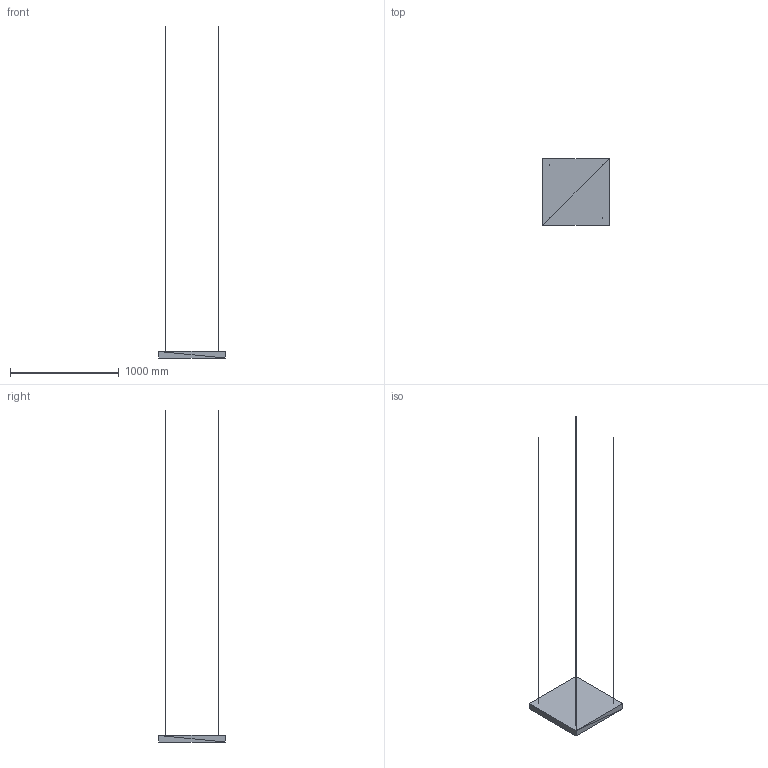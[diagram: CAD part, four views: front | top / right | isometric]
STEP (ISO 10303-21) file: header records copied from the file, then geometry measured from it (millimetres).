
FILE_DESCRIPTION(('ISINAC STEP AP214'),'2;1');
FILE_NAME('ISINAC_C.610_60mm_COLGADO','2026-05-03T10:49:19',('ISINAC'),('www.isinac.com'),'ISINAC BIM Generator 1.0','','');
FILE_SCHEMA(('AUTOMOTIVE_DESIGN'));
Length unit declared in the file: millimetre
Products named in the file (1): ISINAC_C.610_60mm_COLGADO
Bounding box: 610 x 610 x 3060 mm (x, y, z)
Surface area: 998646 mm2 (no closed solid volume)
Topology: 0 solids, 92 shells, 92 faces, 276 edges, 276 vertices
Faces by surface type: plane 92
Entity records: 1025 total; most frequent: CARTESIAN_POINT 368, DIRECTION 184, POLY_LOOP 92, FACE_OUTER_BOUND 92, AXIS2_PLACEMENT_3D 92, PLANE 92, FACE_SURFACE 92, CLOSED_SHELL 1
